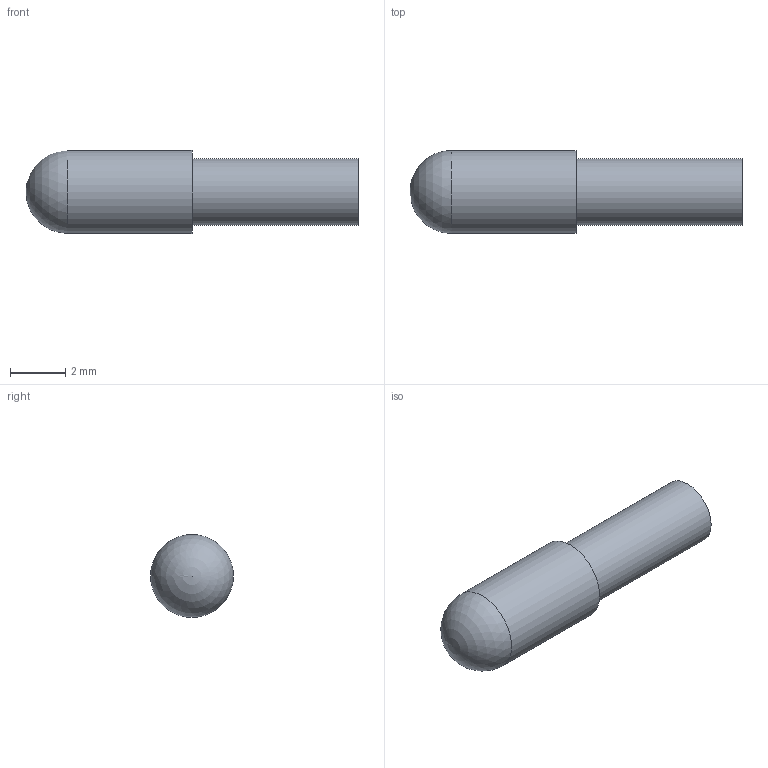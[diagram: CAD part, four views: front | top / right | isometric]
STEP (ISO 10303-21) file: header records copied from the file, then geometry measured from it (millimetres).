
FILE_DESCRIPTION( ( 'STEP AP203' ), '1' );
FILE_NAME( 'C:/Temp/Ganter_Step_05_03_2020/data/3_1/gn610/Spring loaded shell GN 610-3-12-H.stp', '2020-03-12T08:33:17', ( 'License CC BY-ND 4.0' ), ( 'CADENAS' ), ' ', 'PARTsolutions', ' ' );
FILE_SCHEMA( ( 'CONFIG_CONTROL_DESIGN' ) );
Length unit declared in the file: millimetre
Products named in the file (1): _Spring loaded shell GN 610-3-12-H
Bounding box: 12 x 3 x 3 mm (x, y, z)
Volume: 43.2 mm3; surface area: 150.3 mm2
Topology: 1 solids, 1 shells, 7 faces, 12 edges, 8 vertices
Faces by surface type: cylinder 3, plane 3, sphere 1
Full cylindrical faces by diameter (mm): 2.2 x1, 2.4 x1, 3 x1
Entity records: 182 total; most frequent: DIRECTION 28, CARTESIAN_POINT 21, AXIS2_PLACEMENT_3D 14, EDGE_LOOP 12, ORIENTED_EDGE 12, FACE_OUTER_BOUND 10, ADVANCED_FACE 7, VERTEX_POINT 7
